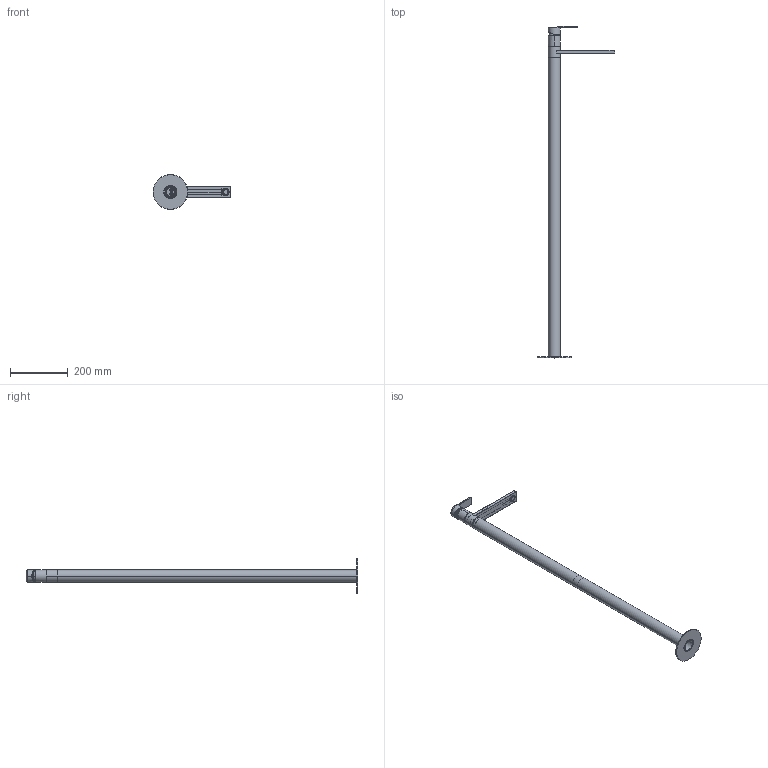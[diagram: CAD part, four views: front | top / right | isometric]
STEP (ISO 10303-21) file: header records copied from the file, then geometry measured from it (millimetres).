
FILE_DESCRIPTION((''),'2;1');
FILE_NAME('47595_SW0001','2024-02-21T09:20:14',('volponeff'),(''),'CREO PARAMETRIC BY PTC INC, 2022014','CREO PARAMETRIC BY PTC INC, 2022014','');
FILE_SCHEMA(('CONFIG_CONTROL_DESIGN'));
Length unit declared in the file: millimetre
Products named in the file (1): 47595_SW0001
Bounding box: 269.2 x 1147.3 x 120 mm (x, y, z)
Volume: 532659 mm3; surface area: 372322 mm2
Topology: 5 solids, 5 shells, 893 faces, 2462 edges, 1591 vertices
Faces by surface type: cylinder 339, plane 309, cone 109, torus 90, bspline 38, sphere 8
Entity records: 35124 total; most frequent: CARTESIAN_POINT 12363, ORIENTED_EDGE 4896, DIRECTION 4719, EDGE_CURVE 2448, AXIS2_PLACEMENT_3D 1793, VERTEX_POINT 1591, VECTOR 1133, LINE 1133
